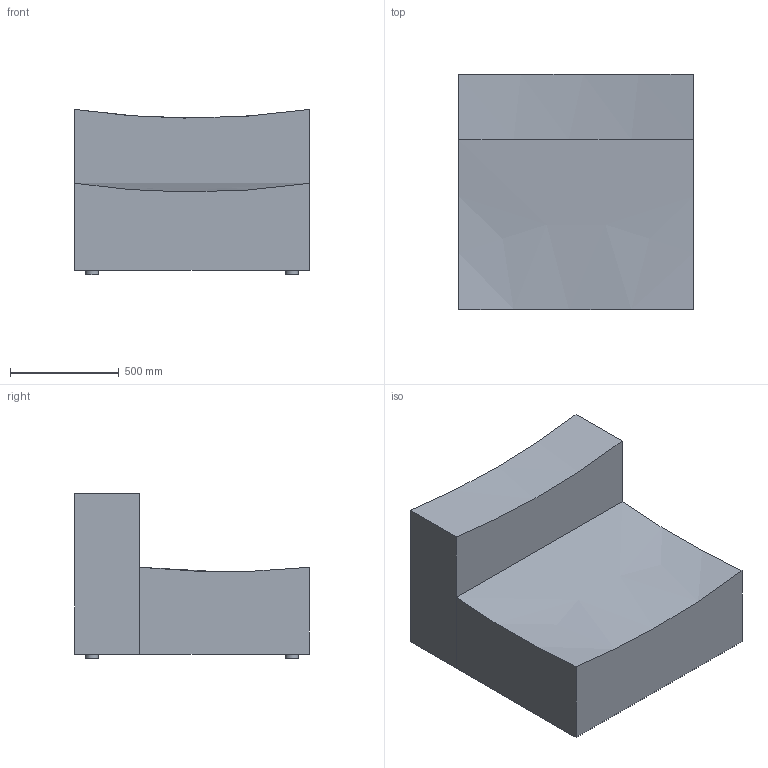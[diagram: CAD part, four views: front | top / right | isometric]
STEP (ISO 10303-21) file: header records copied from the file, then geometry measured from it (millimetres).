
FILE_DESCRIPTION(/* description */ (''),/* implementation_level */ '2;1');
FILE_NAME(/* name */ 'CAP9F7~W',/* time_stamp */ '2020-03-19T15:06:27+01:00',/* author */ (''),/* organization */ (''),/* preprocessor_version */ 'ST-DEVELOPER v16.5',/* originating_system */ '',/* authorisation */ '');
FILE_SCHEMA (('AUTOMOTIVE_DESIGN'));
Length unit declared in the file: millimetre
Products named in the file (1): Document
Bounding box: 1080 x 1080 x 760 mm (x, y, z)
Volume: 551480157.8 mm3; surface area: 5796747.3 mm2
Topology: 6 solids, 6 shells, 24 faces, 36 edges, 24 vertices
Faces by surface type: plane 18, bspline 6
Entity records: 705 total; most frequent: CARTESIAN_POINT 332, ORIENTED_EDGE 72, EDGE_CURVE 36, B_SPLINE_CURVE_WITH_KNOTS 24, ADVANCED_FACE 24, FACE_OUTER_BOUND 24, EDGE_LOOP 24, VERTEX_POINT 24
